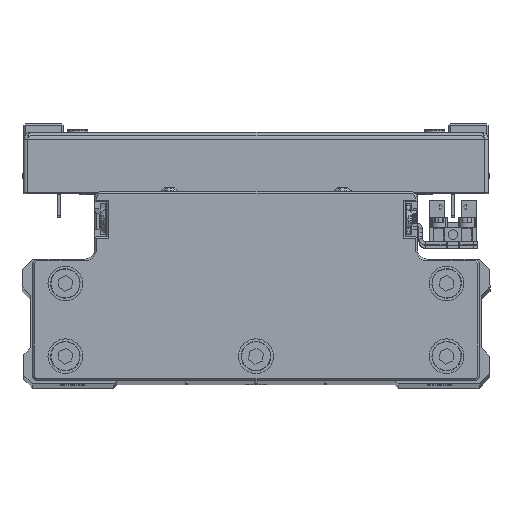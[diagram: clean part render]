
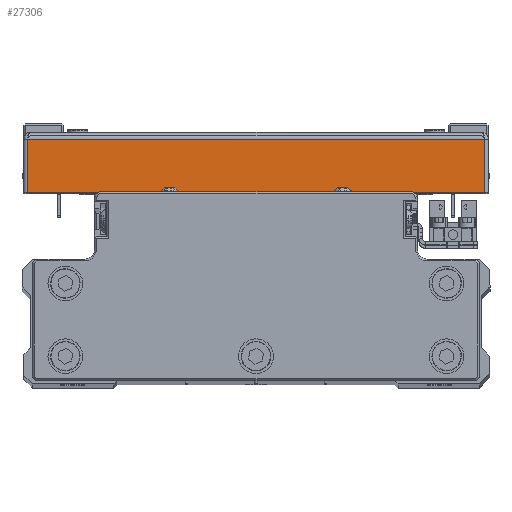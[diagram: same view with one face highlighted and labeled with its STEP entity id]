
A CAD part, top view. The second image highlights one B-rep face of the part: STEP entity #27306.
In plain terms, the highlighted planar face has unit normal (0, 0, 1) as drawn and (1, 0, 0) by its records, which use the part's own axes.
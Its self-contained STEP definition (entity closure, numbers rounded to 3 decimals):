
#494 = FACE_OUTER_BOUND ( 'NONE', #19980, .T. ) ;
#1590 = ORIENTED_EDGE ( 'NONE', *, *, #9832, .F. ) ;
#4616 = LINE ( 'NONE', #17989, #6057 ) ;
#5044 = ORIENTED_EDGE ( 'NONE', *, *, #19128, .T. ) ;
#6057 = VECTOR ( 'NONE', #31411, 1000. ) ;
#6307 = CARTESIAN_POINT ( 'NONE',  ( 75., 16.5, -65.929 ) ) ;
#6717 = CARTESIAN_POINT ( 'NONE',  ( 75., 1., 67. ) ) ;
#7320 = DIRECTION ( 'NONE',  ( 0., 1., 0. ) ) ;
#7928 = EDGE_CURVE ( 'NONE', #37196, #32468, #4616, .T. ) ;
#9832 = EDGE_CURVE ( 'NONE', #37196, #25667, #36841, .T. ) ;
#10577 = DIRECTION ( 'NONE',  ( 0., -1., 0. ) ) ;
#11858 = DIRECTION ( 'NONE',  ( 0., 0., 1. ) ) ;
#13869 = PLANE ( 'NONE',  #38702 ) ;
#17989 = CARTESIAN_POINT ( 'NONE',  ( 75., 0., -65.929 ) ) ;
#18997 = VECTOR ( 'NONE', #7320, 1000. ) ;
#19128 = EDGE_CURVE ( 'NONE', #32468, #23758, #28566, .T. ) ;
#19980 = EDGE_LOOP ( 'NONE', ( #1590, #30526, #5044, #29066 ) ) ;
#20102 = DIRECTION ( 'NONE',  ( 0., 0., 1. ) ) ;
#23758 = VERTEX_POINT ( 'NONE', #24463 ) ;
#24032 = LINE ( 'NONE', #37449, #18997 ) ;
#24463 = CARTESIAN_POINT ( 'NONE',  ( 75., 16.5, 65.929 ) ) ;
#25667 = VERTEX_POINT ( 'NONE', #31287 ) ;
#26561 = VECTOR ( 'NONE', #11858, 1000. ) ;
#27282 = CARTESIAN_POINT ( 'NONE',  ( 75., 0., 0. ) ) ;
#27306 = ADVANCED_FACE ( 'NONE', ( #494 ), #13869, .F. ) ;
#28062 = VECTOR ( 'NONE', #20102, 1000. ) ;
#28566 = LINE ( 'NONE', #41997, #26561 ) ;
#29066 = ORIENTED_EDGE ( 'NONE', *, *, #42748, .F. ) ;
#30526 = ORIENTED_EDGE ( 'NONE', *, *, #7928, .T. ) ;
#31287 = CARTESIAN_POINT ( 'NONE',  ( 75., 1., 65.929 ) ) ;
#31411 = DIRECTION ( 'NONE',  ( 0., 1., 0. ) ) ;
#32468 = VERTEX_POINT ( 'NONE', #6307 ) ;
#34647 = CARTESIAN_POINT ( 'NONE',  ( 75., 1., -65.929 ) ) ;
#36841 = LINE ( 'NONE', #6717, #28062 ) ;
#37196 = VERTEX_POINT ( 'NONE', #34647 ) ;
#37449 = CARTESIAN_POINT ( 'NONE',  ( 75., 0., 65.929 ) ) ;
#38702 = AXIS2_PLACEMENT_3D ( 'NONE', #27282, #40717, #10577 ) ;
#40717 = DIRECTION ( 'NONE',  ( -1., 0., 0. ) ) ;
#41997 = CARTESIAN_POINT ( 'NONE',  ( 75., 16.5, 0. ) ) ;
#42748 = EDGE_CURVE ( 'NONE', #25667, #23758, #24032, .T. ) ;
